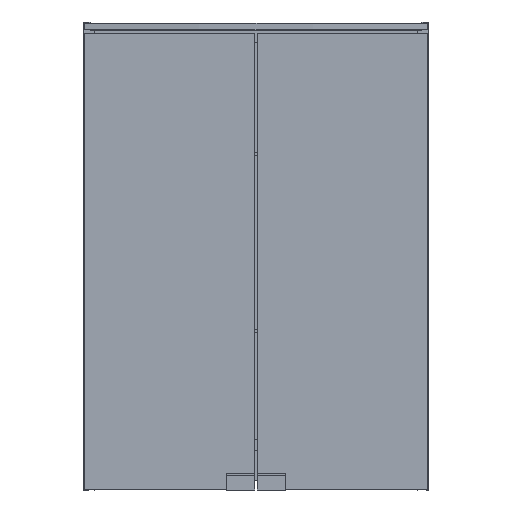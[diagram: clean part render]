
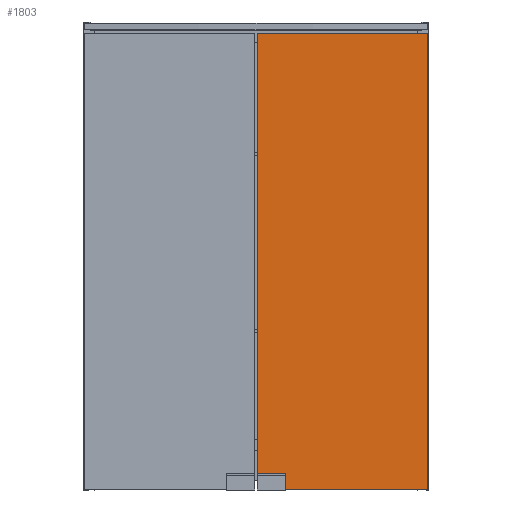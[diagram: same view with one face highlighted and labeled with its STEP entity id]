
A CAD part, front view. The second image highlights one B-rep face of the part: STEP entity #1803.
In plain terms, the highlighted planar face has unit normal (0, -1, 0).
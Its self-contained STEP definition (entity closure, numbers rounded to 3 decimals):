
#27=FACE_OUTER_BOUND('',#117,.T.);
#117=EDGE_LOOP('',(#1147,#1148,#1149,#1150,#1151,#1152));
#206=LINE('',#2445,#454);
#223=LINE('',#2478,#471);
#226=LINE('',#2485,#474);
#227=LINE('',#2487,#475);
#228=LINE('',#2489,#476);
#229=LINE('',#2490,#477);
#454=VECTOR('',#2008,10.);
#471=VECTOR('',#2033,10.);
#474=VECTOR('',#2040,10.);
#475=VECTOR('',#2041,10.);
#476=VECTOR('',#2042,10.);
#477=VECTOR('',#2043,10.);
#702=VERTEX_POINT('',#2442);
#703=VERTEX_POINT('',#2444);
#715=VERTEX_POINT('',#2476);
#717=VERTEX_POINT('',#2484);
#718=VERTEX_POINT('',#2486);
#719=VERTEX_POINT('',#2488);
#868=EDGE_CURVE('',#703,#702,#206,.T.);
#885=EDGE_CURVE('',#702,#715,#223,.T.);
#888=EDGE_CURVE('',#715,#717,#226,.T.);
#889=EDGE_CURVE('',#717,#718,#227,.T.);
#890=EDGE_CURVE('',#719,#718,#228,.T.);
#891=EDGE_CURVE('',#703,#719,#229,.T.);
#1147=ORIENTED_EDGE('',*,*,#868,.T.);
#1148=ORIENTED_EDGE('',*,*,#885,.T.);
#1149=ORIENTED_EDGE('',*,*,#888,.T.);
#1150=ORIENTED_EDGE('',*,*,#889,.T.);
#1151=ORIENTED_EDGE('',*,*,#890,.F.);
#1152=ORIENTED_EDGE('',*,*,#891,.F.);
#1621=PLANE('',#1915);
#1803=ADVANCED_FACE('',(#27),#1621,.T.);
#1915=AXIS2_PLACEMENT_3D('',#2483,#2038,#2039);
#2008=DIRECTION('',(0.,0.,-1.));
#2033=DIRECTION('',(1.,0.,0.));
#2038=DIRECTION('center_axis',(0.,-1.,0.));
#2039=DIRECTION('ref_axis',(0.,0.,-1.));
#2040=DIRECTION('',(0.,0.,-1.));
#2041=DIRECTION('',(1.,0.,0.));
#2042=DIRECTION('',(0.,0.,-1.));
#2043=DIRECTION('',(1.,0.,0.));
#2442=CARTESIAN_POINT('',(1.5,-140.,24.));
#2444=CARTESIAN_POINT('',(1.5,-140.,661.));
#2445=CARTESIAN_POINT('',(1.5,-140.,329.5));
#2476=CARTESIAN_POINT('',(42.5,-140.,24.));
#2478=CARTESIAN_POINT('',(0.,-140.,24.));
#2483=CARTESIAN_POINT('Origin',(0.,-140.,661.));
#2484=CARTESIAN_POINT('',(42.5,-140.,1.));
#2485=CARTESIAN_POINT('',(42.5,-140.,337.109));
#2486=CARTESIAN_POINT('',(248.5,-140.,1.));
#2487=CARTESIAN_POINT('',(0.,-140.,1.));
#2488=CARTESIAN_POINT('',(248.5,-140.,661.));
#2489=CARTESIAN_POINT('',(248.5,-140.,661.));
#2490=CARTESIAN_POINT('',(0.,-140.,661.));
